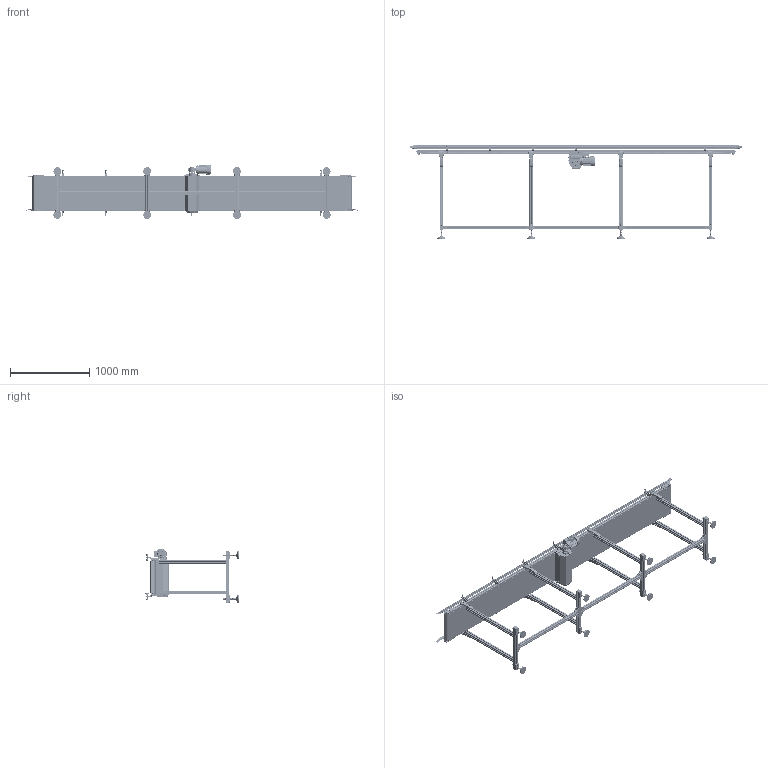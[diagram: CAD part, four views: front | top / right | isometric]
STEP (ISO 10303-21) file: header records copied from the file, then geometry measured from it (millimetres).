
FILE_DESCRIPTION (( 'STEP AP203' ), '1' );
FILE_NAME ('NASTRO_RETTILINEO_TAPPETO.step', '2026-04-21T12:06:06', ( 'Utente Windows' ), ( '' ), 'SwSTEP 2.0', 'SolidWorks 2024', '' );
FILE_SCHEMA (( 'CONFIG_CONTROL_DESIGN' ));
Length unit declared in the file: millimetre
Products named in the file (104): VITI TSEI UNI 5933_M6x12 UNI 5933; VITI TSEI UNI 5933_M5x12 UNI 5933; 084.802.021; 084.711.007; 084.712.005; BLOCCO_RINVIO_50_PENNA_DX; P210RLM-0816-77; TRAVERSA_50-95_CENTRALE_Default<A macchina>; 084.711.010; 084.405.001; VITI TE UNI 5739 INOX_M5x12 UNI 5739 INOX; TRAVERSA_50_Default<A macchina>; 084.827.040; 30UNI7435; 084.802.036; 084.303.001; 084.802.028; 084.301.000 VITI ALUSIC_084.301.036; 084.802.017_084.802.017; RONDELLE UNI 6592_8.4x17 UNI 6592; 084.814.001-1; SPONDA_Default<A macchina>; 08UNI7435; 084.711.006_PER CAVA 8 PERNO ALTO 1; 084.802.070; BLOCCO_TRAINO_50-95_CENTRALE; VITI TCEI UNI 5931_M6x30 UNI 5931; 12UNI7435; PERNO_INF_50_PENNA; 084.301.000 VITI ALUSIC1_084.301.003; VITI TSEI UNI 5933_M8x16 UNI 5933; CH03F_DX; 084.711.006_L2; RONDELLE UNI 6592_5.3x10 UNI 6592; CHIAVETTE_A 5x5x50 UNI 6604-69; VITE_DADO_M6X12; 084.201.012-1; 084.302.017; 084.802.020; RULLO_TENSIONAMENTO_50-95_CENTRALE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
Assembly tree (306 placements, depth 4):
  P210RLM-0816-77
  NASTRO_RETTILINEO_TAPPETO
    TAPPETO_CENTRALE_2PENNE
    TELAIO_50_STANDARD_Default<A macchina>
    LAMIERA_2_PENNE  x2
    RULLO_SUP_50_PENNA  x2
    BLOCCO_RINVIO_50_PENNA_DX  x2
      084.802.036
      084.807.015_084.807.002
      VITI TCEI UNI 5931_M6x30 UNI 5931
      084.827.040
      VITI TCEI UNI 5931_M6x20 UNI 5931
      084.301.000 VITI ALUSIC_084.301.036
      084.302.016
      084.301.000 VITI ALUSIC_084.301.003
      08UNI7435
      12UNI7435
    PERNO_SUP_50_PENNA
    BLOCCO_RINVIO_50_PENNA_SX  x2
      084.807.016_084.807.002
      084.809.007
      084.802.036
      VITI TCEI UNI 5931_M6x30 UNI 5931
      RONDELLE UNI 6592_5.3x10 UNI 6592
      VITI TCEI UNI 5931_M6x20 UNI 5931
      084.301.000 VITI ALUSIC_084.301.036
      084.302.016
      084.301.000 VITI ALUSIC_084.301.003
      VITI TE UNI 5739 INOX_M5x12 UNI 5739 INOX
      12UNI7435
      08UNI7435
    RULLO_INF_50_PENNA  x2
    PERNO_INF_50_PENNA  x2
    PERNO_SUP_95_PENNA
    RULLO_95_Default<A macchina>
    BLOCCO_TRAINO_50-95_CENTRALE_30
      084.802.009
      084.802.021
      084.802.004-1  x2
      084.802.003
      VITI TSEI UNI 5933_M8x20 UNI 5933  x4
      084.302.017
      VITI TE UNI 5739_M6x16 UNI 5739  x6
      RONDELLE UNI 6592_6.4x12.5 UNI 6592  x2
      DADI ESAGONALI NORMALI UNI 5588_M6 UNI 5588  x2
      VITI TE UNI 5739_M6x50 UNI 5739  x2
      VITI TSEI UNI 5933_M6x12 UNI 5933  x6
      VITI TSEI UNI 5933_M8x16 UNI 5933  x3
      084.802.070
    BLOCCO_TRAINO_50-95_CENTRALE
      084.802.004-1  x2
      084.802.020
      084.802.003
      VITI TSEI UNI 5933_M8x20 UNI 5933  x4
      VITI TSEI UNI 5933_M6x12 UNI 5933  x6
      RONDELLE UNI 6592_8.4x17 UNI 6592  x2
      VITI TE UNI 5739_M8x12 UNI 5739  x2
      VITI TE UNI 5739_M6x16 UNI 5739  x2
      084.302.017
      RONDELLE UNI 6592_6.4x12.5 UNI 6592  x2
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Bounding box: 4178.88 x 1172.1 x 677.7 mm (x, y, z)
Volume: 34642637.2 mm3; surface area: 29052313.4 mm2
Topology: 666 solids, 672 shells, 31896 faces, 82087 edges, 51755 vertices
Faces by surface type: plane 12077, cylinder 11126, bspline 3435, cone 2653, torus 2174, sphere 431
Entity records: 357022 total; most frequent: CARTESIAN_POINT 129296, ORIENTED_EDGE 46882, DIRECTION 41188, EDGE_CURVE 23441, VERTEX_POINT 15053, AXIS2_PLACEMENT_3D 14781, VECTOR 11626, LINE 11626
